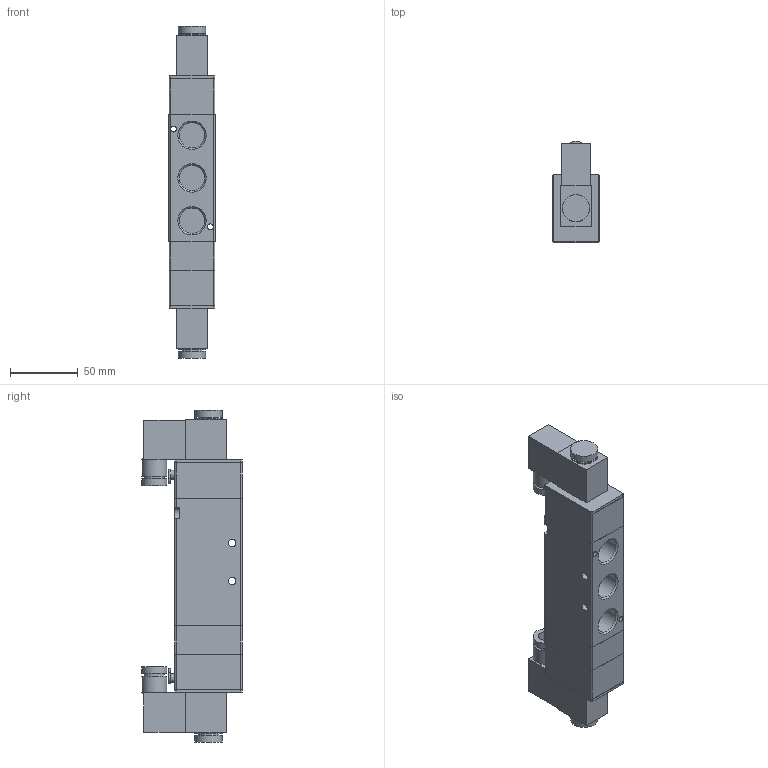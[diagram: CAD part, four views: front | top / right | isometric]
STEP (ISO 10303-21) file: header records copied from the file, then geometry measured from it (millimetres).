
FILE_DESCRIPTION( ( 'STEP AP214' ), '1' );
FILE_NAME( 'C:/Users/emc02044/Desktop/RV五通/RV5342P-15E2.stp', '2026-07-31T11:24:43', ( 'License CC BY-ND 4.0' ), ( 'CADENAS' ), ' ', 'PARTsolutions', ' ' );
FILE_SCHEMA( ( 'AUTOMOTIVE_DESIGN { 1 0 10303 214 1 1 1 1 }' ) );
Length unit declared in the file: millimetre
Products named in the file (1): _RV5342P-15E2
Bounding box: 34 x 74.3 x 244.7 mm (x, y, z)
Volume: 352018 mm3; surface area: 56889.2 mm2
Topology: 1 solids, 1 shells, 148 faces, 345 edges, 229 vertices
Faces by surface type: plane 84, cylinder 57, cone 7
Full cylindrical faces by diameter (mm): 4.3 x2, 5.5 x2, 6.5 x2, 10.8 x2, 15 x4, 18.6 x4, 18.631 x5, 20 x4
Entity records: 5278 total; most frequent: DIRECTION 724, CARTESIAN_POINT 719, ORIENTED_EDGE 614, EDGE_CURVE 307, AXIS2_PLACEMENT_3D 270, VERTEX_POINT 221, EDGE_LOOP 216, LINE 184
